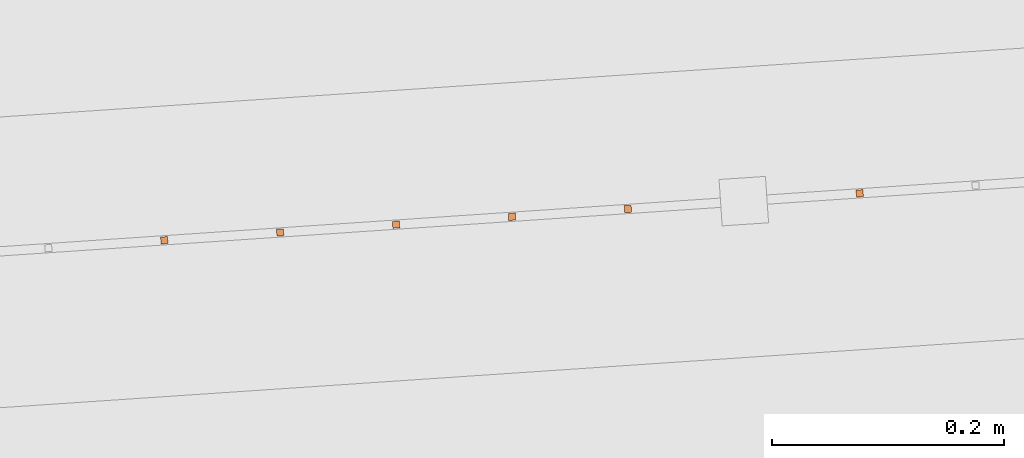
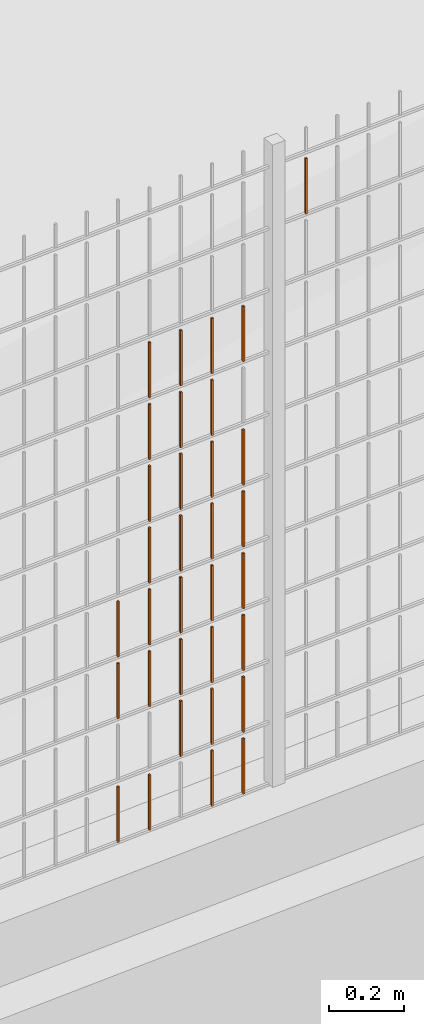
# One storey, part 104 of 1809: 33 proxies, 1 element without a shape of its own.
"""IFC2X3 building model written with IfcOpenShell, lengths in millimetres."""

from ifc_helpers import new_model, entity, si_unit, converted_unit, derived_unit, money_unit, direction, frame, origin_with_axes, place, context, subcontext, project, spatial, faceted_brep, source, transform, mapped, material, type_object, element, aggregate, save


model = new_model("IFC2X3")

# Units and contexts
model_context = context("Model", 3, precision=0.01, world=origin_with_axes(), true_north=direction((0.0, 1.0)))
body_context = subcontext(model_context, "Body", "Model", "MODEL_VIEW")
ifc_project = project(units=[si_unit("LENGTHUNIT", "METRE", prefix="MILLI"), si_unit("AREAUNIT", "SQUARE_METRE"), si_unit("VOLUMEUNIT", "CUBIC_METRE"), converted_unit("PLANEANGLEUNIT", "DEGREE", entity("IfcPlaneAngleMeasure", 0.0174532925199), si_unit("PLANEANGLEUNIT", "RADIAN"), dimensions=[0, 0, 0, 0, 0, 0, 0]), si_unit("SOLIDANGLEUNIT", "STERADIAN"), money_unit("EUR"), converted_unit("TIMEUNIT", "Year", entity("IfcTimeMeasure", 31556926.0), si_unit("TIMEUNIT", "SECOND"), dimensions=[0, 0, 1, 0, 0, 0, 0]), si_unit("MASSUNIT", "GRAM", prefix="KILO"), si_unit("THERMODYNAMICTEMPERATUREUNIT", "DEGREE_CELSIUS"), si_unit("LUMINOUSINTENSITYUNIT", "LUMEN"), si_unit("ENERGYUNIT", "JOULE", prefix="MEGA"), derived_unit("THERMALCONDUCTANCEUNIT", [(si_unit("POWERUNIT", "WATT"), 1), (si_unit("LENGTHUNIT", "METRE"), -1), (si_unit("THERMODYNAMICTEMPERATUREUNIT", "KELVIN"), -1)]), derived_unit("SPECIFICHEATCAPACITYUNIT", [(si_unit("ENERGYUNIT", "JOULE"), 1), (si_unit("MASSUNIT", "GRAM", prefix="KILO"), -1), (si_unit("THERMODYNAMICTEMPERATUREUNIT", "KELVIN"), -1)]), derived_unit("MASSDENSITYUNIT", [(si_unit("MASSUNIT", "GRAM", prefix="KILO"), 1), (si_unit("VOLUMEUNIT", "CUBIC_METRE"), -1)])], contexts=[model_context])

# Site, building, storey
site_placement = place(None, origin_with_axes())
site = spatial("IfcSite", under=ifc_project, at=site_placement, Name="Politse- ja Piirivalveameti ning Päästeameti ühishoone", CompositionType="ELEMENT")
building_placement = place(site_placement, origin_with_axes())
building = spatial("IfcBuilding", under=site, at=building_placement, Name="Politse- ja Piirivalveameti ning Päästeameti ühishoone", CompositionType="ELEMENT")
storey_placement = place(building_placement, origin_with_axes())
storey = spatial("IfcBuildingStorey", under=building, at=storey_placement, Name="Esimene korrus", CompositionType="ELEMENT", Elevation=0.0)

# Proxies
building_element_proxy_type_1 = type_object("IfcBuildingElementProxyType", Name="Railing Type", PredefinedType="NOTDEFINED")
proxy_1_placement = place(storey_placement, frame((89252.001212, -29183.4766571, 203.661247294), z_axis=(0.0, 0.0, 1.0), x_axis=(1.0, 0.0, 0.0)))
proxy_1 = element("IfcBuildingElementProxy", 1, at=proxy_1_placement, inside=storey, type_object=building_element_proxy_type_1, Name="PIIRDEAED")
ifc_material = material(Name="ET-03_Raud")
building_element_proxy_type_2 = type_object("IfcBuildingElementProxyType", Name="IfcBuildingElementProxy", PredefinedType="NOTDEFINED")
shared_shape_1 = source(origin_with_axes(), body_context, "Body", "Brep", [
    faceted_brep([(3.0, 3.0, -0.000752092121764), (-3.0, 3.0, -0.000752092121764), (-3.0, 3.0, 179.99926046), (3.0, 3.0, 179.99926046), (3.0, -3.0, 0.000752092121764), (-3.0, -3.0, 0.000752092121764), (-3.0, -3.0, 180.000764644), (3.0, -3.0, 180.000764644)], [[[0, 1, 2, 3]], [[0, 4, 5, 1]], [[1, 5, 6, 2]], [[3, 2, 6, 7]], [[4, 0, 3, 7]], [[5, 4, 7, 6]]]),
])
proxy_2_placement = place(proxy_1_placement, frame((-95010.1929734, -23715.3547414, 803.361304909), z_axis=(0.0, 0.0, 1.0), x_axis=(1.0, 0.0, 0.0)))
proxy_2 = element("IfcBuildingElementProxy", 2, at=proxy_2_placement, type_object=building_element_proxy_type_2, material=ifc_material, Name="BALUSTER - 001", context=body_context, shape_type="MappedRepresentation", body=[
    mapped(shared_shape_1, transform((0.0, 0.0, 0.0), x_axis=(-0.0673926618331, 0.997726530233, 0.0), y_axis=(-0.997726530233, -0.0673926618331, 0.0), z_axis=(0.0, 0.0, 1.0))),
])
shared_shape_2 = source(origin_with_axes(), body_context, "Body", "Brep", [
    faceted_brep([(3.0, 3.0, -0.000752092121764), (-3.0, 3.0, -0.000752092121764), (-3.0, 3.0, 179.99926046), (3.0, 3.0, 179.99926046), (3.0, -3.0, 0.000752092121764), (-3.0, -3.0, 0.000752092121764), (-3.0, -3.0, 180.000764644), (3.0, -3.0, 180.000764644)], [[[0, 1, 2, 3]], [[0, 4, 5, 1]], [[1, 5, 6, 2]], [[3, 2, 6, 7]], [[4, 0, 3, 7]], [[5, 4, 7, 6]]]),
])
proxy_3_placement = place(proxy_1_placement, frame((-94810.6476673, -23701.8762091, 603.411444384), z_axis=(0.0, 0.0, 1.0), x_axis=(1.0, 0.0, 0.0)))
proxy_3 = element("IfcBuildingElementProxy", 3, at=proxy_3_placement, type_object=building_element_proxy_type_2, material=ifc_material, Name="BALUSTER - 001", context=body_context, shape_type="MappedRepresentation", body=[
    mapped(shared_shape_2, transform((0.0, 0.0, 0.0), x_axis=(-0.0673926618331, 0.997726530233, 0.0), y_axis=(-0.997726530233, -0.0673926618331, 0.0), z_axis=(0.0, 0.0, 1.0))),
])
shared_shape_3 = source(origin_with_axes(), body_context, "Body", "Brep", [
    faceted_brep([(3.0, 3.0, -0.000752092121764), (-3.0, 3.0, -0.000752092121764), (-3.0, 3.0, 179.99926046), (3.0, 3.0, 179.99926046), (3.0, -3.0, 0.000752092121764), (-3.0, -3.0, 0.000752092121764), (-3.0, -3.0, 180.000764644), (3.0, -3.0, 180.000764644)], [[[0, 1, 2, 3]], [[0, 4, 5, 1]], [[1, 5, 6, 2]], [[3, 2, 6, 7]], [[4, 0, 3, 7]], [[5, 4, 7, 6]]]),
])
proxy_4_placement = place(proxy_1_placement, frame((-95010.1929734, -23715.3547414, 3.36130490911), z_axis=(0.0, 0.0, 1.0), x_axis=(1.0, 0.0, 0.0)))
proxy_4 = element("IfcBuildingElementProxy", 4, at=proxy_4_placement, type_object=building_element_proxy_type_2, material=ifc_material, Name="BALUSTER - 001", context=body_context, shape_type="MappedRepresentation", body=[
    mapped(shared_shape_3, transform((0.0, 0.0, 0.0), x_axis=(-0.0673926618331, 0.997726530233, 0.0), y_axis=(-0.997726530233, -0.0673926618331, 0.0), z_axis=(0.0, 0.0, 1.0))),
])
shared_shape_4 = source(origin_with_axes(), body_context, "Body", "Brep", [
    faceted_brep([(3.0, 3.0, -0.000752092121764), (-3.0, 3.0, -0.000752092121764), (-3.0, 3.0, 179.99926046), (3.0, 3.0, 179.99926046), (3.0, -3.0, 0.000752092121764), (-3.0, -3.0, 0.000752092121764), (-3.0, -3.0, 180.000764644), (3.0, -3.0, 180.000764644)], [[[0, 1, 2, 3]], [[0, 4, 5, 1]], [[1, 5, 6, 2]], [[3, 2, 6, 7]], [[4, 0, 3, 7]], [[5, 4, 7, 6]]]),
])
proxy_5_placement = place(proxy_1_placement, frame((-95010.1929734, -23715.3547414, 1203.36130491), z_axis=(0.0, 0.0, 1.0), x_axis=(1.0, 0.0, 0.0)))
proxy_5 = element("IfcBuildingElementProxy", 5, at=proxy_5_placement, type_object=building_element_proxy_type_2, material=ifc_material, Name="BALUSTER - 001", context=body_context, shape_type="MappedRepresentation", body=[
    mapped(shared_shape_4, transform((0.0, 0.0, 0.0), x_axis=(-0.0673926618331, 0.997726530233, 0.0), y_axis=(-0.997726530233, -0.0673926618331, 0.0), z_axis=(0.0, 0.0, 1.0))),
])
shared_shape_5 = source(origin_with_axes(), body_context, "Body", "Brep", [
    faceted_brep([(3.0, 3.0, -0.000752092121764), (-3.0, 3.0, -0.000752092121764), (-3.0, 3.0, 179.99926046), (3.0, 3.0, 179.99926046), (3.0, -3.0, 0.000752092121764), (-3.0, -3.0, 0.000752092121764), (-3.0, -3.0, 180.000764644), (3.0, -3.0, 180.000764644)], [[[0, 1, 2, 3]], [[0, 4, 5, 1]], [[1, 5, 6, 2]], [[3, 2, 6, 7]], [[4, 0, 3, 7]], [[5, 4, 7, 6]]]),
])
proxy_6_placement = place(proxy_1_placement, frame((-95010.1929734, -23715.3547414, 1403.36130491), z_axis=(0.0, 0.0, 1.0), x_axis=(1.0, 0.0, 0.0)))
proxy_6 = element("IfcBuildingElementProxy", 6, at=proxy_6_placement, type_object=building_element_proxy_type_2, material=ifc_material, Name="BALUSTER - 001", context=body_context, shape_type="MappedRepresentation", body=[
    mapped(shared_shape_5, transform((0.0, 0.0, 0.0), x_axis=(-0.0673926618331, 0.997726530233, 0.0), y_axis=(-0.997726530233, -0.0673926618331, 0.0), z_axis=(0.0, 0.0, 1.0))),
])
shared_shape_6 = source(origin_with_axes(), body_context, "Body", "Brep", [
    faceted_brep([(3.0, 3.0, -0.000752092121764), (-3.0, 3.0, -0.000752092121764), (-3.0, 3.0, 179.99926046), (3.0, 3.0, 179.99926046), (3.0, -3.0, 0.000752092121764), (-3.0, -3.0, 0.000752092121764), (-3.0, -3.0, 180.000764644), (3.0, -3.0, 180.000764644)], [[[0, 1, 2, 3]], [[0, 4, 5, 1]], [[1, 5, 6, 2]], [[3, 2, 6, 7]], [[4, 0, 3, 7]], [[5, 4, 7, 6]]]),
])
proxy_7_placement = place(proxy_1_placement, frame((-94810.6476673, -23701.8762091, 3.4114443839), z_axis=(0.0, 0.0, 1.0), x_axis=(1.0, 0.0, 0.0)))
proxy_7 = element("IfcBuildingElementProxy", 7, at=proxy_7_placement, type_object=building_element_proxy_type_2, material=ifc_material, Name="BALUSTER - 001", context=body_context, shape_type="MappedRepresentation", body=[
    mapped(shared_shape_6, transform((0.0, 0.0, 0.0), x_axis=(-0.0673926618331, 0.997726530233, 0.0), y_axis=(-0.997726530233, -0.0673926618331, 0.0), z_axis=(0.0, 0.0, 1.0))),
])
shared_shape_7 = source(origin_with_axes(), body_context, "Body", "Brep", [
    faceted_brep([(3.0, 3.0, -0.000752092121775), (-3.0, 3.0, -0.000752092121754), (-3.0, 3.0, 179.99926046), (3.0, 3.0, 179.99926046), (3.0, -3.0, 0.000752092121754), (-3.0, -3.0, 0.000752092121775), (-3.0, -3.0, 180.000764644), (3.0, -3.0, 180.000764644)], [[[0, 1, 2, 3]], [[0, 4, 5, 1]], [[1, 5, 6, 2]], [[3, 2, 6, 7]], [[4, 0, 3, 7]], [[5, 4, 7, 6]]]),
])
proxy_8_placement = place(proxy_1_placement, frame((-95109.9656264, -23722.0940076, 3.33623517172), z_axis=(0.0, 0.0, 1.0), x_axis=(1.0, 0.0, 0.0)))
proxy_8 = element("IfcBuildingElementProxy", 8, at=proxy_8_placement, type_object=building_element_proxy_type_2, material=ifc_material, Name="BALUSTER - 001", context=body_context, shape_type="MappedRepresentation", body=[
    mapped(shared_shape_7, transform((0.0, 0.0, 0.0), x_axis=(-0.0673926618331, 0.997726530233, 0.0), y_axis=(-0.997726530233, -0.0673926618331, 0.0), z_axis=(0.0, 0.0, 1.0))),
])
shared_shape_8 = source(origin_with_axes(), body_context, "Body", "Brep", [
    faceted_brep([(3.0, 3.0, -0.000752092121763), (-3.0, 3.0, -0.000752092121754), (-3.00000000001, 3.0, 179.99926046), (2.99999999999, 3.0, 179.99926046), (3.0, -3.0, 0.000752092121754), (-3.0, -3.0, 0.000752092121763), (-3.00000000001, -3.0, 180.000764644), (2.99999999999, -3.0, 180.000764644)], [[[0, 1, 2, 3]], [[0, 4, 5, 1]], [[1, 5, 6, 2]], [[3, 2, 6, 7]], [[4, 0, 3, 7]], [[5, 4, 7, 6]]]),
])
proxy_9_placement = place(proxy_1_placement, frame((-94910.4203204, -23708.6154752, 1003.38637465), z_axis=(0.0, 0.0, 1.0), x_axis=(1.0, 0.0, 0.0)))
proxy_9 = element("IfcBuildingElementProxy", 9, at=proxy_9_placement, type_object=building_element_proxy_type_2, material=ifc_material, Name="BALUSTER - 001", context=body_context, shape_type="MappedRepresentation", body=[
    mapped(shared_shape_8, transform((0.0, 0.0, 0.0), x_axis=(-0.0673926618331, 0.997726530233, 0.0), y_axis=(-0.997726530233, -0.0673926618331, 0.0), z_axis=(0.0, 0.0, 1.0))),
])
shared_shape_9 = source(origin_with_axes(), body_context, "Body", "Brep", [
    faceted_brep([(3.0, 3.0, -0.000752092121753), (-3.0, 3.0, -0.000752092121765), (-3.00000000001, 3.0, 179.99926046), (2.99999999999, 3.0, 179.99926046), (3.0, -3.0, 0.000752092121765), (-3.0, -3.0, 0.000752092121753), (-3.00000000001, -3.0, 180.000764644), (2.99999999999, -3.0, 180.000764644)], [[[0, 1, 2, 3]], [[0, 4, 5, 1]], [[1, 5, 6, 2]], [[3, 2, 6, 7]], [[4, 0, 3, 7]], [[5, 4, 7, 6]]]),
])
proxy_10_placement = place(proxy_1_placement, frame((-94810.6476673, -23701.8762091, 1003.41144438), z_axis=(0.0, 0.0, 1.0), x_axis=(1.0, 0.0, 0.0)))
proxy_10 = element("IfcBuildingElementProxy", 10, at=proxy_10_placement, type_object=building_element_proxy_type_2, material=ifc_material, Name="BALUSTER - 001", context=body_context, shape_type="MappedRepresentation", body=[
    mapped(shared_shape_9, transform((0.0, 0.0, 0.0), x_axis=(-0.0673926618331, 0.997726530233, 0.0), y_axis=(-0.997726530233, -0.0673926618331, 0.0), z_axis=(0.0, 0.0, 1.0))),
])
shared_shape_10 = source(origin_with_axes(), body_context, "Body", "Brep", [
    faceted_brep([(3.0, 3.0, -0.000752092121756), (-3.0, 3.0, -0.000752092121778), (-3.0, 3.0, 179.99926046), (3.0, 3.0, 179.99926046), (3.0, -3.0, 0.000752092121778), (-3.0, -3.0, 0.000752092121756), (-3.0, -3.0, 180.000764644), (3.0, -3.0, 180.000764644)], [[[0, 1, 2, 3]], [[0, 4, 5, 1]], [[1, 5, 6, 2]], [[3, 2, 6, 7]], [[4, 0, 3, 7]], [[5, 4, 7, 6]]]),
])
proxy_11_placement = place(proxy_1_placement, frame((-94710.8750143, -23695.1369429, 3.43651412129), z_axis=(0.0, 0.0, 1.0), x_axis=(1.0, 0.0, 0.0)))
proxy_11 = element("IfcBuildingElementProxy", 11, at=proxy_11_placement, type_object=building_element_proxy_type_2, material=ifc_material, Name="BALUSTER - 001", context=body_context, shape_type="MappedRepresentation", body=[
    mapped(shared_shape_10, transform((0.0, 0.0, 0.0), x_axis=(-0.0673926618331, 0.997726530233, 0.0), y_axis=(-0.997726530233, -0.0673926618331, 0.0), z_axis=(0.0, 0.0, 1.0))),
])
shared_shape_11 = source(origin_with_axes(), body_context, "Body", "Brep", [
    faceted_brep([(3.0, 3.0, -0.000752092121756), (-3.0, 3.0, -0.000752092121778), (-3.0, 3.0, 179.99926046), (3.0, 3.0, 179.99926046), (3.0, -3.0, 0.000752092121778), (-3.0, -3.0, 0.000752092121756), (-3.0, -3.0, 180.000764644), (3.0, -3.0, 180.000764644)], [[[0, 1, 2, 3]], [[0, 4, 5, 1]], [[1, 5, 6, 2]], [[3, 2, 6, 7]], [[4, 0, 3, 7]], [[5, 4, 7, 6]]]),
])
proxy_12_placement = place(proxy_1_placement, frame((-94710.8750143, -23695.1369429, 203.436514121), z_axis=(0.0, 0.0, 1.0), x_axis=(1.0, 0.0, 0.0)))
proxy_12 = element("IfcBuildingElementProxy", 12, at=proxy_12_placement, type_object=building_element_proxy_type_2, material=ifc_material, Name="BALUSTER - 001", context=body_context, shape_type="MappedRepresentation", body=[
    mapped(shared_shape_11, transform((0.0, 0.0, 0.0), x_axis=(-0.0673926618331, 0.997726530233, 0.0), y_axis=(-0.997726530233, -0.0673926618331, 0.0), z_axis=(0.0, 0.0, 1.0))),
])
shared_shape_12 = source(origin_with_axes(), body_context, "Body", "Brep", [
    faceted_brep([(3.0, 3.0, -0.000752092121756), (-3.0, 3.0, -0.000752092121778), (-3.0, 3.0, 179.99926046), (3.0, 3.0, 179.99926046), (3.0, -3.0, 0.000752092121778), (-3.0, -3.0, 0.000752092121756), (-3.0, -3.0, 180.000764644), (3.0, -3.0, 180.000764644)], [[[0, 1, 2, 3]], [[0, 4, 5, 1]], [[1, 5, 6, 2]], [[3, 2, 6, 7]], [[4, 0, 3, 7]], [[5, 4, 7, 6]]]),
])
proxy_13_placement = place(proxy_1_placement, frame((-94710.8750143, -23695.1369429, 403.436514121), z_axis=(0.0, 0.0, 1.0), x_axis=(1.0, 0.0, 0.0)))
proxy_13 = element("IfcBuildingElementProxy", 13, at=proxy_13_placement, type_object=building_element_proxy_type_2, material=ifc_material, Name="BALUSTER - 001", context=body_context, shape_type="MappedRepresentation", body=[
    mapped(shared_shape_12, transform((0.0, 0.0, 0.0), x_axis=(-0.0673926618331, 0.997726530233, 0.0), y_axis=(-0.997726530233, -0.0673926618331, 0.0), z_axis=(0.0, 0.0, 1.0))),
])
proxy_14_placement = place(proxy_1_placement, frame((-94710.8750143, -23695.1369429, 603.436514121), z_axis=(0.0, 0.0, 1.0), x_axis=(1.0, 0.0, 0.0)))
proxy_14 = element("IfcBuildingElementProxy", 14, at=proxy_14_placement, type_object=building_element_proxy_type_2, material=ifc_material, Name="BALUSTER - 001", context=body_context, shape_type="MappedRepresentation", body=[
    mapped(shared_shape_12, transform((0.0, 0.0, 0.0), x_axis=(-0.0673926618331, 0.997726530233, 0.0), y_axis=(-0.997726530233, -0.0673926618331, 0.0), z_axis=(0.0, 0.0, 1.0))),
])
shared_shape_13 = source(origin_with_axes(), body_context, "Body", "Brep", [
    faceted_brep([(3.0, 3.0, -0.000752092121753), (-3.0, 3.0, -0.000752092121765), (-3.00000000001, 3.0, 179.99926046), (2.99999999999, 3.0, 179.99926046), (3.0, -3.0, 0.000752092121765), (-3.0, -3.0, 0.000752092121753), (-3.00000000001, -3.0, 180.000764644), (2.99999999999, -3.0, 180.000764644)], [[[0, 1, 2, 3]], [[0, 4, 5, 1]], [[1, 5, 6, 2]], [[3, 2, 6, 7]], [[4, 0, 3, 7]], [[5, 4, 7, 6]]]),
])
proxy_15_placement = place(proxy_1_placement, frame((-94710.8750143, -23695.1369429, 1003.43651412), z_axis=(0.0, 0.0, 1.0), x_axis=(1.0, 0.0, 0.0)))
proxy_15 = element("IfcBuildingElementProxy", 15, at=proxy_15_placement, type_object=building_element_proxy_type_2, material=ifc_material, Name="BALUSTER - 001", context=body_context, shape_type="MappedRepresentation", body=[
    mapped(shared_shape_13, transform((0.0, 0.0, 0.0), x_axis=(-0.0673926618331, 0.997726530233, 0.0), y_axis=(-0.997726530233, -0.0673926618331, 0.0), z_axis=(0.0, 0.0, 1.0))),
])
shared_shape_14 = source(origin_with_axes(), body_context, "Body", "Brep", [
    faceted_brep([(3.0, 3.0, -0.000752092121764), (-3.0, 3.0, -0.000752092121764), (-3.0, 3.0, 179.99926046), (3.0, 3.0, 179.99926046), (3.0, -3.0, 0.000752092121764), (-3.0, -3.0, 0.000752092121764), (-3.0, -3.0, 180.000764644), (3.0, -3.0, 180.000764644)], [[[0, 1, 2, 3]], [[0, 4, 5, 1]], [[1, 5, 6, 2]], [[3, 2, 6, 7]], [[4, 0, 3, 7]], [[5, 4, 7, 6]]]),
])
proxy_16_placement = place(proxy_1_placement, frame((-94810.6476673, -23701.8762091, 203.411444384), z_axis=(0.0, 0.0, 1.0), x_axis=(1.0, 0.0, 0.0)))
proxy_16 = element("IfcBuildingElementProxy", 16, at=proxy_16_placement, type_object=building_element_proxy_type_2, material=ifc_material, Name="BALUSTER - 001", context=body_context, shape_type="MappedRepresentation", body=[
    mapped(shared_shape_14, transform((0.0, 0.0, 0.0), x_axis=(-0.0673926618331, 0.997726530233, 0.0), y_axis=(-0.997726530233, -0.0673926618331, 0.0), z_axis=(0.0, 0.0, 1.0))),
])
proxy_17_placement = place(proxy_1_placement, frame((-94810.6476673, -23701.8762091, 403.411444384), z_axis=(0.0, 0.0, 1.0), x_axis=(1.0, 0.0, 0.0)))
proxy_17 = element("IfcBuildingElementProxy", 17, at=proxy_17_placement, type_object=building_element_proxy_type_2, material=ifc_material, Name="BALUSTER - 001", context=body_context, shape_type="MappedRepresentation", body=[
    mapped(shared_shape_14, transform((0.0, 0.0, 0.0), x_axis=(-0.0673926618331, 0.997726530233, 0.0), y_axis=(-0.997726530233, -0.0673926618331, 0.0), z_axis=(0.0, 0.0, 1.0))),
])
proxy_18_placement = place(proxy_1_placement, frame((-95010.1929734, -23715.3547414, 403.361304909), z_axis=(0.0, 0.0, 1.0), x_axis=(1.0, 0.0, 0.0)))
proxy_18 = element("IfcBuildingElementProxy", 18, at=proxy_18_placement, type_object=building_element_proxy_type_2, material=ifc_material, Name="BALUSTER - 001", context=body_context, shape_type="MappedRepresentation", body=[
    mapped(shared_shape_14, transform((0.0, 0.0, 0.0), x_axis=(-0.0673926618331, 0.997726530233, 0.0), y_axis=(-0.997726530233, -0.0673926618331, 0.0), z_axis=(0.0, 0.0, 1.0))),
])
shared_shape_15 = source(origin_with_axes(), body_context, "Body", "Brep", [
    faceted_brep([(3.0, 3.0, -0.000752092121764), (-3.0, 3.0, -0.000752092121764), (-3.0, 3.0, 179.99926046), (3.0, 3.0, 179.99926046), (3.0, -3.0, 0.000752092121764), (-3.0, -3.0, 0.000752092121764), (-3.0, -3.0, 180.000764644), (3.0, -3.0, 180.000764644)], [[[0, 1, 2, 3]], [[0, 4, 5, 1]], [[1, 5, 6, 2]], [[3, 2, 6, 7]], [[4, 0, 3, 7]], [[5, 4, 7, 6]]]),
])
proxy_19_placement = place(proxy_1_placement, frame((-95010.1929734, -23715.3547414, 603.361304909), z_axis=(0.0, 0.0, 1.0), x_axis=(1.0, 0.0, 0.0)))
proxy_19 = element("IfcBuildingElementProxy", 19, at=proxy_19_placement, type_object=building_element_proxy_type_2, material=ifc_material, Name="BALUSTER - 001", context=body_context, shape_type="MappedRepresentation", body=[
    mapped(shared_shape_15, transform((0.0, 0.0, 0.0), x_axis=(-0.0673926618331, 0.997726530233, 0.0), y_axis=(-0.997726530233, -0.0673926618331, 0.0), z_axis=(0.0, 0.0, 1.0))),
])
shared_shape_16 = source(origin_with_axes(), body_context, "Body", "Brep", [
    faceted_brep([(3.0, 3.0, -0.000752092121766), (-3.0, 3.0, -0.000752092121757), (-3.00000000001, 3.0, 179.99926046), (2.99999999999, 3.0, 179.99926046), (3.0, -3.0, 0.000752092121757), (-3.0, -3.0, 0.000752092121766), (-3.00000000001, -3.0, 180.000764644), (2.99999999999, -3.0, 180.000764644)], [[[0, 1, 2, 3]], [[0, 4, 5, 1]], [[1, 5, 6, 2]], [[3, 2, 6, 7]], [[4, 0, 3, 7]], [[5, 4, 7, 6]]]),
])
proxy_20_placement = place(proxy_1_placement, frame((-95010.1929734, -23715.3547414, 1003.36130491), z_axis=(0.0, 0.0, 1.0), x_axis=(1.0, 0.0, 0.0)))
proxy_20 = element("IfcBuildingElementProxy", 20, at=proxy_20_placement, type_object=building_element_proxy_type_2, material=ifc_material, Name="BALUSTER - 001", context=body_context, shape_type="MappedRepresentation", body=[
    mapped(shared_shape_16, transform((0.0, 0.0, 0.0), x_axis=(-0.0673926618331, 0.997726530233, 0.0), y_axis=(-0.997726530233, -0.0673926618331, 0.0), z_axis=(0.0, 0.0, 1.0))),
])
shared_shape_17 = source(origin_with_axes(), body_context, "Body", "Brep", [
    faceted_brep([(3.0, 3.0, -0.000752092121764), (-3.0, 3.0, -0.000752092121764), (-3.0, 3.0, 179.99926046), (3.0, 3.0, 179.99926046), (3.0, -3.0, 0.000752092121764), (-3.0, -3.0, 0.000752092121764), (-3.0, -3.0, 180.000764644), (3.0, -3.0, 180.000764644)], [[[0, 1, 2, 3]], [[0, 4, 5, 1]], [[1, 5, 6, 2]], [[3, 2, 6, 7]], [[4, 0, 3, 7]], [[5, 4, 7, 6]]]),
])
proxy_21_placement = place(proxy_1_placement, frame((-94910.4203204, -23708.6154752, 803.386374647), z_axis=(0.0, 0.0, 1.0), x_axis=(1.0, 0.0, 0.0)))
proxy_21 = element("IfcBuildingElementProxy", 21, at=proxy_21_placement, type_object=building_element_proxy_type_2, material=ifc_material, Name="BALUSTER - 001", context=body_context, shape_type="MappedRepresentation", body=[
    mapped(shared_shape_17, transform((0.0, 0.0, 0.0), x_axis=(-0.0673926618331, 0.997726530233, 0.0), y_axis=(-0.997726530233, -0.0673926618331, 0.0), z_axis=(0.0, 0.0, 1.0))),
])
shared_shape_18 = source(origin_with_axes(), body_context, "Body", "Brep", [
    faceted_brep([(3.0, 3.0, -0.000752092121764), (-3.0, 3.0, -0.000752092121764), (-3.0, 3.0, 179.99926046), (3.0, 3.0, 179.99926046), (3.0, -3.0, 0.000752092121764), (-3.0, -3.0, 0.000752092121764), (-3.0, -3.0, 180.000764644), (3.0, -3.0, 180.000764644)], [[[0, 1, 2, 3]], [[0, 4, 5, 1]], [[1, 5, 6, 2]], [[3, 2, 6, 7]], [[4, 0, 3, 7]], [[5, 4, 7, 6]]]),
])
proxy_22_placement = place(proxy_1_placement, frame((-94910.4203204, -23708.6154752, 1203.38637465), z_axis=(0.0, 0.0, 1.0), x_axis=(1.0, 0.0, 0.0)))
proxy_22 = element("IfcBuildingElementProxy", 22, at=proxy_22_placement, type_object=building_element_proxy_type_2, material=ifc_material, Name="BALUSTER - 001", context=body_context, shape_type="MappedRepresentation", body=[
    mapped(shared_shape_18, transform((0.0, 0.0, 0.0), x_axis=(-0.0673926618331, 0.997726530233, 0.0), y_axis=(-0.997726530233, -0.0673926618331, 0.0), z_axis=(0.0, 0.0, 1.0))),
])
shared_shape_19 = source(origin_with_axes(), body_context, "Body", "Brep", [
    faceted_brep([(3.0, 3.0, -0.000752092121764), (-3.0, 3.0, -0.000752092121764), (-3.0, 3.0, 179.99926046), (3.0, 3.0, 179.99926046), (3.0, -3.0, 0.000752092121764), (-3.0, -3.0, 0.000752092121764), (-3.0, -3.0, 180.000764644), (3.0, -3.0, 180.000764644)], [[[0, 1, 2, 3]], [[0, 4, 5, 1]], [[1, 5, 6, 2]], [[3, 2, 6, 7]], [[4, 0, 3, 7]], [[5, 4, 7, 6]]]),
])
proxy_23_placement = place(proxy_1_placement, frame((-94910.4203204, -23708.6154752, 203.386374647), z_axis=(0.0, 0.0, 1.0), x_axis=(1.0, 0.0, 0.0)))
proxy_23 = element("IfcBuildingElementProxy", 23, at=proxy_23_placement, type_object=building_element_proxy_type_2, material=ifc_material, Name="BALUSTER - 001", context=body_context, shape_type="MappedRepresentation", body=[
    mapped(shared_shape_19, transform((0.0, 0.0, 0.0), x_axis=(-0.0673926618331, 0.997726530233, 0.0), y_axis=(-0.997726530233, -0.0673926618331, 0.0), z_axis=(0.0, 0.0, 1.0))),
])
proxy_24_placement = place(proxy_1_placement, frame((-94910.4203204, -23708.6154752, 603.386374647), z_axis=(0.0, 0.0, 1.0), x_axis=(1.0, 0.0, 0.0)))
proxy_24 = element("IfcBuildingElementProxy", 24, at=proxy_24_placement, type_object=building_element_proxy_type_2, material=ifc_material, Name="BALUSTER - 001", context=body_context, shape_type="MappedRepresentation", body=[
    mapped(shared_shape_19, transform((0.0, 0.0, 0.0), x_axis=(-0.0673926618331, 0.997726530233, 0.0), y_axis=(-0.997726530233, -0.0673926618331, 0.0), z_axis=(0.0, 0.0, 1.0))),
])
shared_shape_20 = source(origin_with_axes(), body_context, "Body", "Brep", [
    faceted_brep([(3.0, 3.0, -0.000752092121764), (-3.0, 3.0, -0.000752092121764), (-3.0, 3.0, 179.99926046), (3.0, 3.0, 179.99926046), (3.0, -3.0, 0.000752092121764), (-3.0, -3.0, 0.000752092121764), (-3.0, -3.0, 180.000764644), (3.0, -3.0, 180.000764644)], [[[0, 1, 2, 3]], [[0, 4, 5, 1]], [[1, 5, 6, 2]], [[3, 2, 6, 7]], [[4, 0, 3, 7]], [[5, 4, 7, 6]]]),
])
proxy_25_placement = place(proxy_1_placement, frame((-94910.4203204, -23708.6154752, 403.386374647), z_axis=(0.0, 0.0, 1.0), x_axis=(1.0, 0.0, 0.0)))
proxy_25 = element("IfcBuildingElementProxy", 25, at=proxy_25_placement, type_object=building_element_proxy_type_2, material=ifc_material, Name="BALUSTER - 001", context=body_context, shape_type="MappedRepresentation", body=[
    mapped(shared_shape_20, transform((0.0, 0.0, 0.0), x_axis=(-0.0673926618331, 0.997726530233, 0.0), y_axis=(-0.997726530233, -0.0673926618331, 0.0), z_axis=(0.0, 0.0, 1.0))),
])
shared_shape_21 = source(origin_with_axes(), body_context, "Body", "Brep", [
    faceted_brep([(3.0, 3.0, -0.000752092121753), (-3.0, 3.0, -0.000752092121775), (-3.0, 3.0, 179.99926046), (3.0, 3.0, 179.99926046), (3.0, -3.0, 0.000752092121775), (-3.0, -3.0, 0.000752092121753), (-3.0, -3.0, 180.000764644), (3.0, -3.0, 180.000764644)], [[[0, 1, 2, 3]], [[0, 4, 5, 1]], [[1, 5, 6, 2]], [[3, 2, 6, 7]], [[4, 0, 3, 7]], [[5, 4, 7, 6]]]),
])
proxy_26_placement = place(proxy_1_placement, frame((-94710.8750143, -23695.1369429, 803.436514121), z_axis=(0.0, 0.0, 1.0), x_axis=(1.0, 0.0, 0.0)))
proxy_26 = element("IfcBuildingElementProxy", 26, at=proxy_26_placement, type_object=building_element_proxy_type_2, material=ifc_material, Name="BALUSTER - 001", context=body_context, shape_type="MappedRepresentation", body=[
    mapped(shared_shape_21, transform((0.0, 0.0, 0.0), x_axis=(-0.0673926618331, 0.997726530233, 0.0), y_axis=(-0.997726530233, -0.0673926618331, 0.0), z_axis=(0.0, 0.0, 1.0))),
])
shared_shape_22 = source(origin_with_axes(), body_context, "Body", "Brep", [
    faceted_brep([(3.0, 3.0, -0.000752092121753), (-3.0, 3.0, -0.000752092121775), (-3.0, 3.0, 179.99926046), (3.0, 3.0, 179.99926046), (3.0, -3.0, 0.000752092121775), (-3.0, -3.0, 0.000752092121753), (-3.0, -3.0, 180.000764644), (3.0, -3.0, 180.000764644)], [[[0, 1, 2, 3]], [[0, 4, 5, 1]], [[1, 5, 6, 2]], [[3, 2, 6, 7]], [[4, 0, 3, 7]], [[5, 4, 7, 6]]]),
])
proxy_27_placement = place(proxy_1_placement, frame((-94511.3297083, -23681.6584105, 1803.4866536), z_axis=(0.0, 0.0, 1.0), x_axis=(1.0, 0.0, 0.0)))
proxy_27 = element("IfcBuildingElementProxy", 27, at=proxy_27_placement, type_object=building_element_proxy_type_2, material=ifc_material, Name="BALUSTER - 001", context=body_context, shape_type="MappedRepresentation", body=[
    mapped(shared_shape_22, transform((0.0, 0.0, 0.0), x_axis=(-0.0673926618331, 0.997726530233, 0.0), y_axis=(-0.997726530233, -0.0673926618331, 0.0), z_axis=(0.0, 0.0, 1.0))),
])
shared_shape_23 = source(origin_with_axes(), body_context, "Body", "Brep", [
    faceted_brep([(3.0, 3.0, -0.000752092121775), (-3.0, 3.0, -0.000752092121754), (-3.0, 3.0, 179.99926046), (3.0, 3.0, 179.99926046), (3.0, -3.0, 0.000752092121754), (-3.0, -3.0, 0.000752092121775), (-3.0, -3.0, 180.000764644), (3.0, -3.0, 180.000764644)], [[[0, 1, 2, 3]], [[0, 4, 5, 1]], [[1, 5, 6, 2]], [[3, 2, 6, 7]], [[4, 0, 3, 7]], [[5, 4, 7, 6]]]),
])
proxy_28_placement = place(proxy_1_placement, frame((-95109.9656264, -23722.0940076, 403.336235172), z_axis=(0.0, 0.0, 1.0), x_axis=(1.0, 0.0, 0.0)))
proxy_28 = element("IfcBuildingElementProxy", 28, at=proxy_28_placement, type_object=building_element_proxy_type_2, material=ifc_material, Name="BALUSTER - 001", context=body_context, shape_type="MappedRepresentation", body=[
    mapped(shared_shape_23, transform((0.0, 0.0, 0.0), x_axis=(-0.0673926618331, 0.997726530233, 0.0), y_axis=(-0.997726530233, -0.0673926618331, 0.0), z_axis=(0.0, 0.0, 1.0))),
])
proxy_29_placement = place(proxy_1_placement, frame((-95109.9656264, -23722.0940076, 603.336235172), z_axis=(0.0, 0.0, 1.0), x_axis=(1.0, 0.0, 0.0)))
proxy_29 = element("IfcBuildingElementProxy", 29, at=proxy_29_placement, type_object=building_element_proxy_type_2, material=ifc_material, Name="BALUSTER - 001", context=body_context, shape_type="MappedRepresentation", body=[
    mapped(shared_shape_23, transform((0.0, 0.0, 0.0), x_axis=(-0.0673926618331, 0.997726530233, 0.0), y_axis=(-0.997726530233, -0.0673926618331, 0.0), z_axis=(0.0, 0.0, 1.0))),
])
shared_shape_24 = source(origin_with_axes(), body_context, "Body", "Brep", [
    faceted_brep([(3.0, 3.0, -0.000752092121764), (-3.0, 3.0, -0.000752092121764), (-3.0, 3.0, 179.99926046), (3.0, 3.0, 179.99926046), (3.0, -3.0, 0.000752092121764), (-3.0, -3.0, 0.000752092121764), (-3.0, -3.0, 180.000764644), (3.0, -3.0, 180.000764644)], [[[0, 1, 2, 3]], [[0, 4, 5, 1]], [[1, 5, 6, 2]], [[3, 2, 6, 7]], [[4, 0, 3, 7]], [[5, 4, 7, 6]]]),
])
proxy_30_placement = place(proxy_1_placement, frame((-94810.6476673, -23701.8762091, 803.411444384), z_axis=(0.0, 0.0, 1.0), x_axis=(1.0, 0.0, 0.0)))
proxy_30 = element("IfcBuildingElementProxy", 30, at=proxy_30_placement, type_object=building_element_proxy_type_2, material=ifc_material, Name="BALUSTER - 001", context=body_context, shape_type="MappedRepresentation", body=[
    mapped(shared_shape_24, transform((0.0, 0.0, 0.0), x_axis=(-0.0673926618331, 0.997726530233, 0.0), y_axis=(-0.997726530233, -0.0673926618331, 0.0), z_axis=(0.0, 0.0, 1.0))),
])
proxy_31_placement = place(proxy_1_placement, frame((-94810.6476673, -23701.8762091, 1203.41144438), z_axis=(0.0, 0.0, 1.0), x_axis=(1.0, 0.0, 0.0)))
proxy_31 = element("IfcBuildingElementProxy", 31, at=proxy_31_placement, type_object=building_element_proxy_type_2, material=ifc_material, Name="BALUSTER - 001", context=body_context, shape_type="MappedRepresentation", body=[
    mapped(shared_shape_24, transform((0.0, 0.0, 0.0), x_axis=(-0.0673926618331, 0.997726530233, 0.0), y_axis=(-0.997726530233, -0.0673926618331, 0.0), z_axis=(0.0, 0.0, 1.0))),
])
shared_shape_25 = source(origin_with_axes(), body_context, "Body", "Brep", [
    faceted_brep([(3.0, 3.0, -0.000752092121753), (-3.0, 3.0, -0.000752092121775), (-3.0, 3.0, 179.99926046), (3.0, 3.0, 179.99926046), (3.0, -3.0, 0.000752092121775), (-3.0, -3.0, 0.000752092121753), (-3.0, -3.0, 180.000764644), (3.0, -3.0, 180.000764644)], [[[0, 1, 2, 3]], [[0, 4, 5, 1]], [[1, 5, 6, 2]], [[3, 2, 6, 7]], [[4, 0, 3, 7]], [[5, 4, 7, 6]]]),
])
proxy_32_placement = place(proxy_1_placement, frame((-94710.8750143, -23695.1369429, 1403.43651412), z_axis=(0.0, 0.0, 1.0), x_axis=(1.0, 0.0, 0.0)))
proxy_32 = element("IfcBuildingElementProxy", 32, at=proxy_32_placement, type_object=building_element_proxy_type_2, material=ifc_material, Name="BALUSTER - 001", context=body_context, shape_type="MappedRepresentation", body=[
    mapped(shared_shape_25, transform((0.0, 0.0, 0.0), x_axis=(-0.0673926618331, 0.997726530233, 0.0), y_axis=(-0.997726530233, -0.0673926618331, 0.0), z_axis=(0.0, 0.0, 1.0))),
])
shared_shape_26 = source(origin_with_axes(), body_context, "Body", "Brep", [
    faceted_brep([(3.0, 3.0, -0.000752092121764), (-3.0, 3.0, -0.000752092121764), (-3.0, 3.0, 179.99926046), (3.0, 3.0, 179.99926046), (3.0, -3.0, 0.000752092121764), (-3.0, -3.0, 0.000752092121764), (-3.0, -3.0, 180.000764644), (3.0, -3.0, 180.000764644)], [[[0, 1, 2, 3]], [[0, 4, 5, 1]], [[1, 5, 6, 2]], [[3, 2, 6, 7]], [[4, 0, 3, 7]], [[5, 4, 7, 6]]]),
])
proxy_33_placement = place(proxy_1_placement, frame((-94810.6476673, -23701.8762091, 1403.41144438), z_axis=(0.0, 0.0, 1.0), x_axis=(1.0, 0.0, 0.0)))
proxy_33 = element("IfcBuildingElementProxy", 33, at=proxy_33_placement, type_object=building_element_proxy_type_2, material=ifc_material, Name="BALUSTER - 001", context=body_context, shape_type="MappedRepresentation", body=[
    mapped(shared_shape_26, transform((0.0, 0.0, 0.0), x_axis=(-0.0673926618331, 0.997726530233, 0.0), y_axis=(-0.997726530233, -0.0673926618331, 0.0), z_axis=(0.0, 0.0, 1.0))),
])
shared_shape_27 = source(origin_with_axes(), body_context, "Body", "Brep", [
    faceted_brep([(3.0, 3.0, -0.000752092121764), (-3.0, 3.0, -0.000752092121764), (-3.0, 3.0, 179.99926046), (3.0, 3.0, 179.99926046), (3.0, -3.0, 0.000752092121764), (-3.0, -3.0, 0.000752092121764), (-3.0, -3.0, 180.000764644), (3.0, -3.0, 180.000764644)], [[[0, 1, 2, 3]], [[0, 4, 5, 1]], [[1, 5, 6, 2]], [[3, 2, 6, 7]], [[4, 0, 3, 7]], [[5, 4, 7, 6]]]),
])
proxy_34_placement = place(proxy_1_placement, frame((-94910.4203204, -23708.6154752, 1403.38637465), z_axis=(0.0, 0.0, 1.0), x_axis=(1.0, 0.0, 0.0)))
proxy_34 = element("IfcBuildingElementProxy", 34, at=proxy_34_placement, type_object=building_element_proxy_type_2, material=ifc_material, Name="BALUSTER - 001", context=body_context, shape_type="MappedRepresentation", body=[
    mapped(shared_shape_27, transform((0.0, 0.0, 0.0), x_axis=(-0.0673926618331, 0.997726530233, 0.0), y_axis=(-0.997726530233, -0.0673926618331, 0.0), z_axis=(0.0, 0.0, 1.0))),
])
aggregate(proxy_1, [proxy_27, proxy_11, proxy_7, proxy_4, proxy_8, proxy_12, proxy_16, proxy_23, proxy_13, proxy_17, proxy_25, proxy_18, proxy_28, proxy_14, proxy_3, proxy_24, proxy_19, proxy_29, proxy_26, proxy_30, proxy_21, proxy_2, proxy_15, proxy_10, proxy_9, proxy_20, proxy_31, proxy_22, proxy_5, proxy_32, proxy_33, proxy_34, proxy_6])

save(model, "model.ifc")
